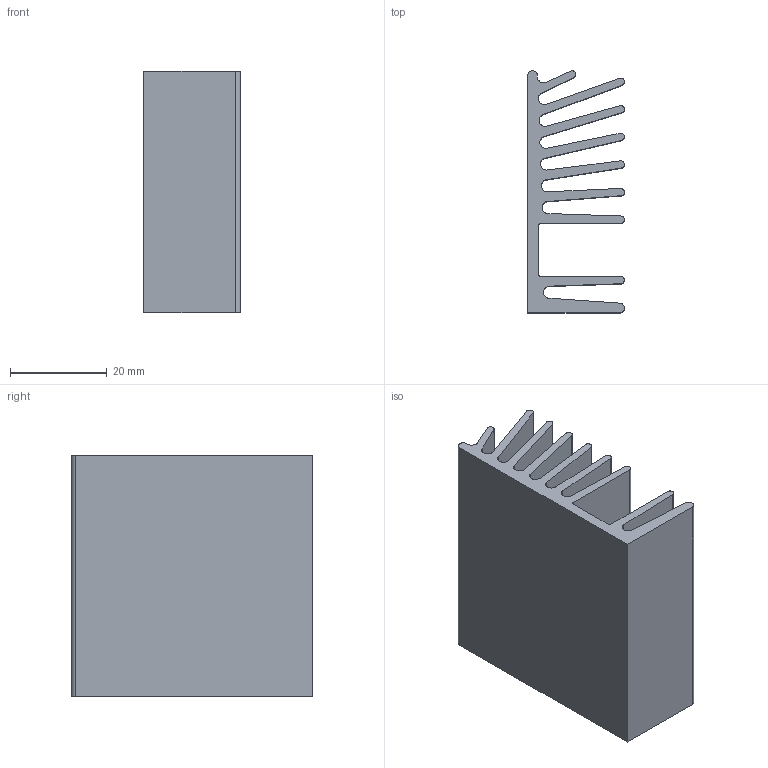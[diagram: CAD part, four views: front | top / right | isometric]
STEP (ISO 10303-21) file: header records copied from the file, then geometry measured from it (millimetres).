
FILE_DESCRIPTION (( 'STEP AP203' ), '1' );
FILE_NAME ('PR 139-50.step', '2002-10-20T23:41:03', ( 'Wolfgang Müller' ), ( 'DPS' ), 'SwSTEP 2.0', 'SolidWorks 2002264', '' );
FILE_SCHEMA (( 'CONFIG_CONTROL_DESIGN' ));
Length unit declared in the file: millimetre
Products named in the file (1): PR 139-50
Bounding box: 20 x 50 x 50 mm (x, y, z)
Volume: 20026.1 mm3; surface area: 19956.7 mm2
Topology: 1 solids, 1 shells, 50 faces, 144 edges, 96 vertices
Faces by surface type: cylinder 27, plane 23
Entity records: 1739 total; most frequent: DIRECTION 300, CARTESIAN_POINT 291, ORIENTED_EDGE 288, EDGE_CURVE 144, AXIS2_PLACEMENT_3D 105, VERTEX_POINT 96, LINE 90, VECTOR 90
